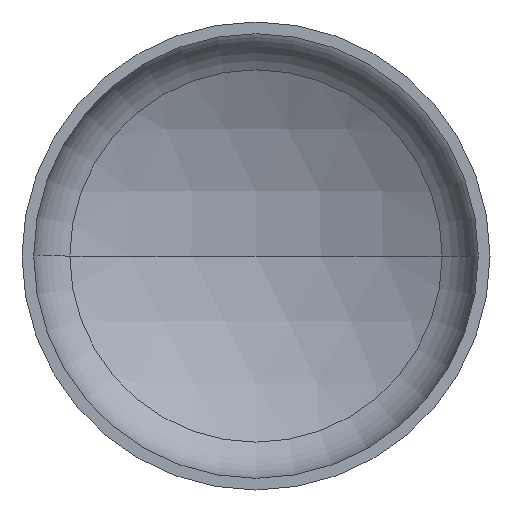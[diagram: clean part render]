
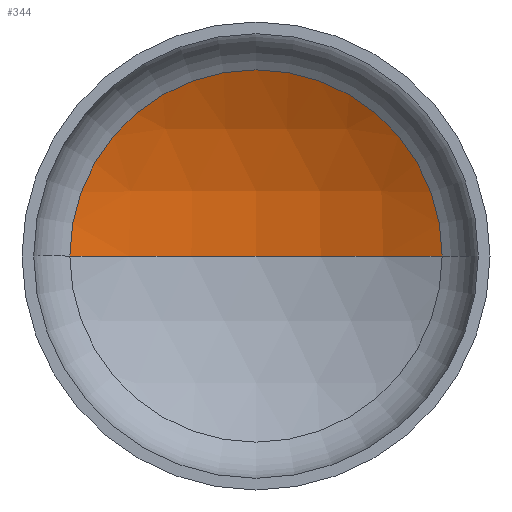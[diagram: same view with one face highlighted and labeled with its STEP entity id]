
A CAD part, front view. The second image highlights one B-rep face of the part: STEP entity #344.
In plain terms, the highlighted spherical face has radius 2240 mm.
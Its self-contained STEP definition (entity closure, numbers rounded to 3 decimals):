
#16 = AXIS2_PLACEMENT_3D ( 'NONE', #149, #346, #183 ) ;
#17 = AXIS2_PLACEMENT_3D ( 'NONE', #261, #88, #286 ) ;
#18 = AXIS2_PLACEMENT_3D ( 'NONE', #367, #213, #396 ) ;
#41 = VERTEX_POINT ( 'NONE', #229 ) ;
#61 = EDGE_CURVE ( 'NONE', #41, #128, #303, .T. ) ;
#62 = EDGE_CURVE ( 'NONE', #167, #41, #235, .T. ) ;
#63 = EDGE_CURVE ( 'NONE', #167, #128, #76, .T. ) ;
#73 = EDGE_LOOP ( 'NONE', ( #204, #186, #194 ) ) ;
#76 = CIRCLE ( 'NONE', #16, 2240. ) ;
#88 = DIRECTION ( 'NONE',  ( 0., 0., -1. ) ) ;
#110 = SPHERICAL_SURFACE ( 'NONE', #243, 2240. ) ;
#128 = VERTEX_POINT ( 'NONE', #316 ) ;
#149 = CARTESIAN_POINT ( 'NONE',  ( 0., -1450.382, 0. ) ) ;
#167 = VERTEX_POINT ( 'NONE', #349 ) ;
#183 = DIRECTION ( 'NONE',  ( 1., 0., 0. ) ) ;
#185 = FACE_OUTER_BOUND ( 'NONE', #73, .T. ) ;
#186 = ORIENTED_EDGE ( 'NONE', *, *, #62, .T. ) ;
#194 = ORIENTED_EDGE ( 'NONE', *, *, #61, .T. ) ;
#204 = ORIENTED_EDGE ( 'NONE', *, *, #63, .F. ) ;
#213 = DIRECTION ( 'NONE',  ( 0., -1., 0. ) ) ;
#229 = CARTESIAN_POINT ( 'NONE',  ( 1113.812, 493.074, 0. ) ) ;
#235 = CIRCLE ( 'NONE', #17, 2240. ) ;
#243 = AXIS2_PLACEMENT_3D ( 'NONE', #322, #293, #378 ) ;
#261 = CARTESIAN_POINT ( 'NONE',  ( 0., -1450.382, 0. ) ) ;
#286 = DIRECTION ( 'NONE',  ( -1., 0., 0. ) ) ;
#293 = DIRECTION ( 'NONE',  ( 0., 0., -1. ) ) ;
#303 = CIRCLE ( 'NONE', #18, 1113.812 ) ;
#316 = CARTESIAN_POINT ( 'NONE',  ( -1113.812, 493.074, 0. ) ) ;
#322 = CARTESIAN_POINT ( 'NONE',  ( 0., -1450.382, 0. ) ) ;
#344 = ADVANCED_FACE ( 'NONE', ( #185 ), #110, .F. ) ;
#346 = DIRECTION ( 'NONE',  ( 0., 0., 1. ) ) ;
#349 = CARTESIAN_POINT ( 'NONE',  ( 0., 789.618, 0. ) ) ;
#367 = CARTESIAN_POINT ( 'NONE',  ( 0., 493.074, 0. ) ) ;
#378 = DIRECTION ( 'NONE',  ( -1., 0., 0. ) ) ;
#396 = DIRECTION ( 'NONE',  ( 1., 0., 0. ) ) ;
